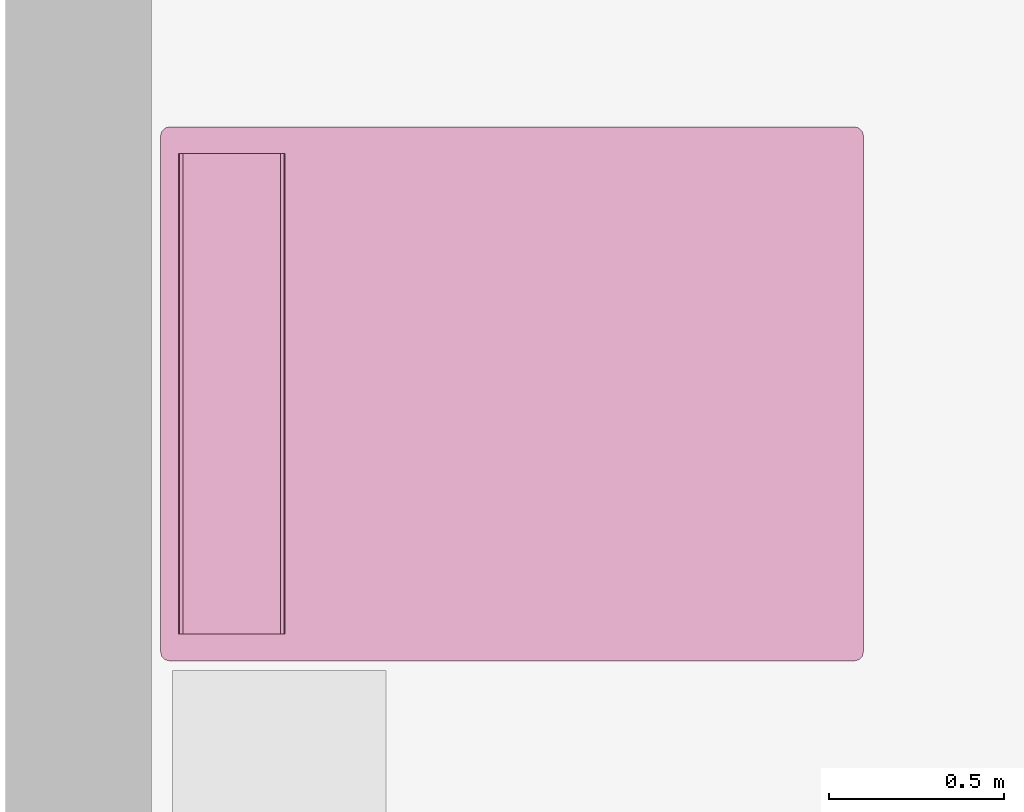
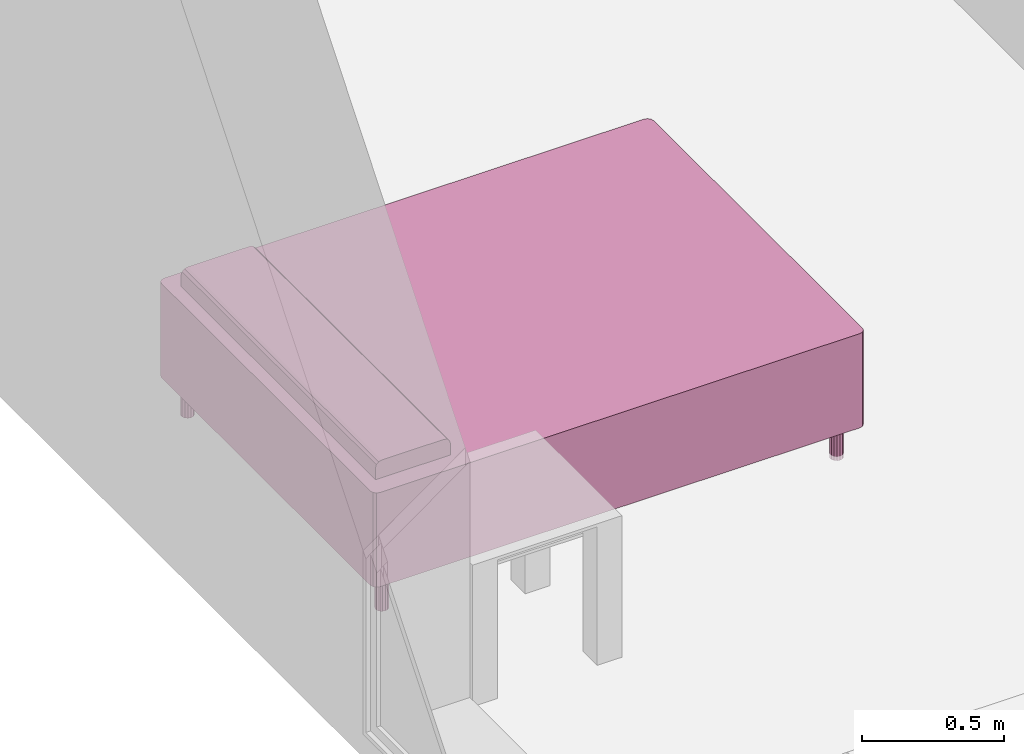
# One storey, part 11 of 16: 1 furnishing.
"""IFC4 building model written with IfcOpenShell, lengths in metres."""

from ifc_helpers import new_model, entity, si_unit, converted_unit, frame, origin, place, context, project, spatial, face_set, surface_model, source, transform, mapped, type_object, type_shapes, element, save


model = new_model("IFC4")

# Units and contexts
model_context = context("Model", 3, precision=1e-09, world=origin())
plan_context = context("Plan", 3, precision=1e-09, world=origin())
ifc_project = project(units=[si_unit("LENGTHUNIT", "METRE"), si_unit("AREAUNIT", "SQUARE_METRE"), si_unit("VOLUMEUNIT", "CUBIC_METRE"), converted_unit("PLANEANGLEUNIT", "DEGREE", entity("IfcRatioMeasure", 0.01745329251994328), si_unit("PLANEANGLEUNIT", "RADIAN"), dimensions=[0, 0, 0, 0, 0, 0, 0]), si_unit("TIMEUNIT", "SECOND")], contexts=[model_context, plan_context])

# Site, building, storey, space
site_placement = place(None, origin())
site = spatial("IfcSite", under=ifc_project, at=site_placement, Name="Default", CompositionType="ELEMENT")
building_placement = place(site_placement, origin())
building = spatial("IfcBuilding", under=site, at=building_placement, CompositionType="ELEMENT")
storey_placement = place(building_placement, frame((0.0, 0.0, 3.100000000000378)))
storey = spatial("IfcBuildingStorey", under=building, at=storey_placement, Name="Level 2", CompositionType="ELEMENT", Elevation=3.100000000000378)
space_placement = place(storey_placement, origin())
space = spatial("IfcSpace", under=storey, at=space_placement, Name="B203", CompositionType="ELEMENT", PredefinedType="SPACE")

# Furnishing
furniture_type = type_object("IfcFurnitureType", Name="1525 x 2007mm - Queen", AssemblyPlace="NOTDEFINED")
shared_shape = source(origin(), model_context, "Body", "SurfaceModel", [
    surface_model("IfcFaceBasedSurfaceModel", [(0.001595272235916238, 0.02699527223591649, 0.3556), (0.001595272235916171, 1.983195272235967, 0.3556), (0.004998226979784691, 1.995895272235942, 0.3556), (0.01429527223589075, 2.005192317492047, 0.3556), (0.02699527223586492, 2.008595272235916, 0.3556), (1.501195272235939, 2.008595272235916, 0.3556), (1.513895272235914, 2.005192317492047, 0.3556), (1.523192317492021, 1.995895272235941, 0.3556), (1.52659527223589, 1.983195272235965, 0.3556), (1.52659527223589, 0.02699527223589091, 0.3556), (1.523192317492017, 0.01429527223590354, 0.3556), (1.513895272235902, 0.004998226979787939, 0.3556), (1.501195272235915, 0.001595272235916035, 0.3556), (0.02699527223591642, 0.001595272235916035, 0.3556), (0.01429527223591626, 0.004998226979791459, 0.3556), (0.004998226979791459, 0.0142952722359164, 0.3556), (0.001595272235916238, 0.02699527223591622, 0.1524), (0.001595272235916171, 1.983195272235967, 0.1524), (0.004998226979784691, 1.995895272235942, 0.1524), (0.01429527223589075, 2.005192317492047, 0.1524), (0.02699527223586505, 2.008595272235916, 0.1524), (1.501195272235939, 2.008595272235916, 0.1524), (1.513895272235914, 2.005192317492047, 0.1524), (1.523192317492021, 1.995895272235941, 0.1524), (1.52659527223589, 1.983195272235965, 0.1524), (1.52659527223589, 0.02699527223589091, 0.1524), (1.523192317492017, 0.01429527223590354, 0.1524), (1.513895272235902, 0.004998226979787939, 0.1524), (1.501195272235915, 0.001595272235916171, 0.1524), (0.02699527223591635, 0.001595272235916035, 0.1524), (0.01429527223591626, 0.004998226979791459, 0.1524), (0.004998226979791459, 0.0142952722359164, 0.1524), (0.003559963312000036, 0.01966295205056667, 0.1524000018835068), (0.003296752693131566, 0.02064530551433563, 0.3555999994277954), (0.0096467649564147, 0.009646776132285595, 0.3555999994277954), (0.0096467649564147, 0.009646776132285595, 0.1524000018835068), (0.02064525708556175, 0.003296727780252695, 0.1524000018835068), (0.01966294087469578, 0.003559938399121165, 0.3555999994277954), (1.508527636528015, 0.003559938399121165, 0.1524000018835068), (1.507545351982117, 0.003296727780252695, 0.3555999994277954), (1.518543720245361, 0.009646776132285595, 0.3555999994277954), (1.518543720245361, 0.009646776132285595, 0.1524000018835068), (1.524893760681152, 0.02064530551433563, 0.1524000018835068), (1.524630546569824, 0.01966295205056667, 0.3555999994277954), (1.524893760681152, 1.989545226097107, 0.3555999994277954), (1.524893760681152, 1.989545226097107, 0.1524000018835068), (1.518543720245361, 2.000543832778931, 0.3555999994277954), (1.518543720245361, 2.000543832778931, 0.1524000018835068), (1.507545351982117, 2.006893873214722, 0.1524000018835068), (1.508527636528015, 2.006630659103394, 0.3555999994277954), (0.01966294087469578, 2.006630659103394, 0.1524000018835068), (0.02064525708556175, 2.006893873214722, 0.3555999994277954), (0.0096467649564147, 2.000543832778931, 0.3555999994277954), (0.0096467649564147, 2.000543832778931, 0.1524000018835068), (0.003296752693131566, 1.989545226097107, 0.1524000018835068), (0.003559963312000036, 1.990527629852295, 0.3555999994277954), (0.07779527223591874, 1.652995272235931, 0.5588000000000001), (0.07779527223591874, 1.652995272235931, 0.6096), (0.07779527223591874, 1.656398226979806, 0.6223), (0.07779527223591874, 1.665695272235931, 0.6315970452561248), (0.07779527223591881, 1.678395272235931, 0.6349999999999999), (0.07779527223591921, 1.932395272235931, 0.6349999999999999), (0.07779527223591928, 1.945095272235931, 0.6315970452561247), (0.07779527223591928, 1.954392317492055, 0.6222999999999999), (0.07779527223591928, 1.957795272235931, 0.6095999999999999), (0.07779527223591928, 1.957795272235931, 0.5588000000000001), (1.45039527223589, 1.652995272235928, 0.5588000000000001), (1.450395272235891, 1.957795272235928, 0.5588000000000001), (1.450395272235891, 1.957795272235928, 0.6095999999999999), (1.450395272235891, 1.954392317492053, 0.6222999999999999), (1.450395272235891, 1.945095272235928, 0.6315970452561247), (1.450395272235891, 1.932395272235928, 0.6349999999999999), (1.45039527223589, 1.678395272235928, 0.6349999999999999), (1.45039527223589, 1.665695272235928, 0.6315970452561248), (1.45039527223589, 1.656398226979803, 0.6223), (1.45039527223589, 1.652995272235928, 0.6096), (0.07779525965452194, 1.655322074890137, 0.6182838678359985), (1.450395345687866, 1.654696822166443, 0.6159499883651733), (0.07779525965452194, 1.654158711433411, 0.6139419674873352), (0.07779525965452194, 1.674053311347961, 0.6338366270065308), (1.450395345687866, 1.672045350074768, 0.6332985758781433), (0.07779525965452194, 1.661046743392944, 0.6269484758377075), (1.450395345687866, 1.661046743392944, 0.6269484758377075), (0.07779525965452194, 1.669711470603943, 0.6326731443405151), (1.450395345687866, 1.941079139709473, 0.6326731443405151), (0.07779525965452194, 1.956631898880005, 0.6139419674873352), (1.450395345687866, 1.956093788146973, 0.6159499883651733), (0.07779525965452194, 1.938745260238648, 0.6332985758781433), (1.450395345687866, 1.936737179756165, 0.6338366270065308), (0.07779525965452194, 1.949743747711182, 0.6269484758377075), (1.450395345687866, 1.949743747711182, 0.6269484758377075), (0.07779525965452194, 1.955468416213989, 0.6182838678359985), (0.1031952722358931, 1.932395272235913, 0.1524), (0.1006798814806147, 1.921374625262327, 0.1524), (0.09363191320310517, 1.912536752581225, 0.1524), (0.08344730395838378, 1.907632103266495, 0.1524), (0.0721432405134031, 1.907632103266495, 0.1524), (0.06195863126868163, 1.912536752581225, 0.1524), (0.05491066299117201, 1.921374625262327, 0.1524), (0.05239527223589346, 1.932395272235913, 0.1524), (0.05491066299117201, 1.943415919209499, 0.1524), (0.06195863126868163, 1.9522537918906, 0.1524), (0.07214324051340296, 1.957158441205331, 0.1524), (0.0834473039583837, 1.957158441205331, 0.1524), (0.09363191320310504, 1.9522537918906, 0.1524), (0.1006798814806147, 1.943415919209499, 0.1524), (1.475795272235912, 1.93239527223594, 0.1524), (1.473279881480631, 1.921374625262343, 0.1524), (1.466231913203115, 1.912536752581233, 0.1524), (1.456047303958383, 1.907632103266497, 0.1524), (1.444743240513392, 1.907632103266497, 0.1524), (1.434558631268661, 1.912536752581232, 0.1524), (1.427510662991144, 1.921374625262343, 0.1524), (1.424995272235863, 1.932395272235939, 0.1524), (1.427510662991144, 1.943415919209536, 0.1524), (1.434558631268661, 1.952253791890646, 0.1524), (1.444743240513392, 1.957158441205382, 0.1524), (1.456047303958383, 1.957158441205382, 0.1524), (1.466231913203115, 1.952253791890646, 0.1524), (1.473279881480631, 1.943415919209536, 0.1524), (1.475795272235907, 0.07779527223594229, 0.1524), (1.473279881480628, 0.06677462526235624, 0.1524), (1.466231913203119, 0.05793675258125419, 0.1524), (1.456047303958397, 0.05303210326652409, 0.1524), (1.444743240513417, 0.05303210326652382, 0.1524), (1.434558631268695, 0.05793675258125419, 0.1524), (1.427510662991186, 0.06677462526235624, 0.1524), (1.424995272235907, 0.07779527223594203, 0.1524), (1.427510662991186, 0.08881591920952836, 0.1524), (1.434558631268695, 0.09765379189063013, 0.1524), (1.444743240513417, 0.1025584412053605, 0.1524), (1.456047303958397, 0.1025584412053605, 0.1524), (1.466231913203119, 0.09765379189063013, 0.1524), (1.473279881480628, 0.0888159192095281, 0.1524), (0.1031952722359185, 0.07779527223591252, 0.1524), (0.1006798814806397, 0.0667746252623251, 0.1524), (0.0936319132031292, 0.0579367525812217, 0.1524), (0.08344730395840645, 0.05303210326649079, 0.1524), (0.07214324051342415, 0.05303210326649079, 0.1524), (0.06195863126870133, 0.0579367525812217, 0.1524), (0.05491066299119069, 0.06677462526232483, 0.1524), (0.0523952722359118, 0.07779527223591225, 0.1524), (0.05491066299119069, 0.08881591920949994, 0.1524), (0.06195863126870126, 0.09765379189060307, 0.1524), (0.07214324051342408, 0.102558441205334, 0.1524), (0.08344730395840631, 0.102558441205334, 0.1524), (0.09363191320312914, 0.09765379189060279, 0.1524), (0.1006798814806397, 0.08881591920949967, 0.1524), (0.1031952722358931, 1.932395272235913, 0.0), (0.1006798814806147, 1.921374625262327, 0.0), (0.09363191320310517, 1.912536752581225, 0.0), (0.08344730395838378, 1.907632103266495, 0.0), (0.0721432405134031, 1.907632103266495, 0.0), (0.06195863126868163, 1.912536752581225, 0.0), (0.05491066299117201, 1.921374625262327, 0.0), (0.05239527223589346, 1.932395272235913, 0.0), (0.05491066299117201, 1.943415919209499, 0.0), (0.06195863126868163, 1.9522537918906, 0.0), (0.07214324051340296, 1.957158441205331, 0.0), (0.0834473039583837, 1.957158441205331, 0.0), (0.09363191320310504, 1.9522537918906, 0.0), (0.1006798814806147, 1.943415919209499, 0.0), (1.475795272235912, 1.932395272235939, 0.0), (1.473279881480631, 1.921374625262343, 0.0), (1.466231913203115, 1.912536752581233, 0.0), (1.456047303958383, 1.907632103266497, 0.0), (1.444743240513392, 1.907632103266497, 0.0), (1.434558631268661, 1.912536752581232, 0.0), (1.427510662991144, 1.921374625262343, 0.0), (1.424995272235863, 1.93239527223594, 0.0), (1.427510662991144, 1.943415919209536, 0.0), (1.434558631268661, 1.952253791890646, 0.0), (1.444743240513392, 1.957158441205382, 0.0), (1.456047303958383, 1.957158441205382, 0.0), (1.466231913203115, 1.952253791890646, 0.0), (1.473279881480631, 1.943415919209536, 0.0), (1.475795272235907, 0.07779527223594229, 0.0), (1.473279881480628, 0.06677462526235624, 0.0), (1.466231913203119, 0.05793675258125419, 0.0), (1.456047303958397, 0.05303210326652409, 0.0), (1.444743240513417, 0.05303210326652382, 0.0), (1.434558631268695, 0.05793675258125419, 0.0), (1.427510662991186, 0.06677462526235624, 0.0), (1.424995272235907, 0.07779527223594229, 0.0), (1.427510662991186, 0.08881591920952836, 0.0), (1.434558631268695, 0.09765379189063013, 0.0), (1.444743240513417, 0.1025584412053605, 0.0), (1.456047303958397, 0.1025584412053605, 0.0), (1.466231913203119, 0.09765379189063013, 0.0), (1.473279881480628, 0.0888159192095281, 0.0), (0.1031952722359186, 0.07779527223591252, 0.0), (0.1006798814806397, 0.0667746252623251, 0.0), (0.0936319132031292, 0.0579367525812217, 0.0), (0.08344730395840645, 0.05303210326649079, 0.0), (0.07214324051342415, 0.05303210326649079, 0.0), (0.06195863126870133, 0.0579367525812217, 0.0), (0.05491066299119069, 0.06677462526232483, 0.0), (0.05239527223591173, 0.07779527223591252, 0.0), (0.05491066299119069, 0.08881591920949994, 0.0), (0.06195863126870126, 0.09765379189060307, 0.0), (0.07214324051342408, 0.102558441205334, 0.0), (0.08344730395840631, 0.102558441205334, 0.0), (0.09363191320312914, 0.09765379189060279, 0.0), (0.1006798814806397, 0.08881591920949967, 0.0), (0.05365298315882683, 1.926885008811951, 0.1524000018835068), (0.0584346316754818, 1.916955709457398, 0.0), (0.0584346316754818, 1.916955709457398, 0.1524000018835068), (0.1020657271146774, 1.927446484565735, 0.1524000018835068), (0.1019375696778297, 1.926885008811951, 0.0), (0.06705092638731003, 1.910084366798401, 0.0), (0.06705092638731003, 1.910084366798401, 0.1524000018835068), (0.05352479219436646, 1.927446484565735, 0.0), (0.07779525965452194, 1.907632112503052, 0.1524000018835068), (0.07779525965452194, 1.907632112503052, 0.0), (0.08853962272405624, 1.910084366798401, 0.0), (0.08853962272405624, 1.910084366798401, 0.1524000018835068), (0.09715588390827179, 1.916955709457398, 0.1524000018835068), (0.09715588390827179, 1.916955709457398, 0.0), (0.1020657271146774, 1.937344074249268, 0.0), (0.1019375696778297, 1.937905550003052, 0.1524000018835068), (0.09715588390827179, 1.947834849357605, 0.0), (0.09715588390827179, 1.947834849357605, 0.1524000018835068), (0.08853962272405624, 1.954706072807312, 0.1524000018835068), (0.08853962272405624, 1.954706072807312, 0.0), (0.07779525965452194, 1.957158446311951, 0.1524000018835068), (0.07779525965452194, 1.957158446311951, 0.0), (0.06705092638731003, 1.954706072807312, 0.1524000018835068), (0.06705092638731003, 1.954706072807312, 0.0), (0.05352479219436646, 1.937344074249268, 0.1524000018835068), (0.0584346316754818, 1.947834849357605, 0.1524000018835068), (0.0584346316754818, 1.947834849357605, 0.0), (0.05365298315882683, 1.937905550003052, 0.0), (1.426252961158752, 1.926885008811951, 0.1524000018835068), (1.431034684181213, 1.916955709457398, 0.0), (1.431034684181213, 1.916955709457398, 0.1524000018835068), (1.47453761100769, 1.926885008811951, 0.0), (1.474665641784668, 1.927446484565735, 0.1524000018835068), (1.439650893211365, 1.910084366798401, 0.0), (1.439650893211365, 1.910084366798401, 0.1524000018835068), (1.426124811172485, 1.927446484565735, 0.0), (1.450395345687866, 1.907632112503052, 0.1524000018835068), (1.450395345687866, 1.907632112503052, 0.0), (1.461139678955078, 1.910084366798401, 0.0), (1.461139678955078, 1.910084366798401, 0.1524000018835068), (1.46975588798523, 1.916955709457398, 0.1524000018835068), (1.46975588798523, 1.916955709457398, 0.0), (1.474665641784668, 1.937344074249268, 0.0), (1.47453761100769, 1.937905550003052, 0.1524000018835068), (1.46975588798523, 1.947834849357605, 0.0), (1.46975588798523, 1.947834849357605, 0.1524000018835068), (1.461139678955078, 1.954706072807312, 0.1524000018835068), (1.461139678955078, 1.954706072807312, 0.0), (1.450395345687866, 1.957158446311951, 0.1524000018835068), (1.450395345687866, 1.957158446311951, 0.0), (1.439650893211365, 1.954706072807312, 0.1524000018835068), (1.439650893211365, 1.954706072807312, 0.0), (1.426124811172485, 1.937344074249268, 0.1524000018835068), (1.431034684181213, 1.947834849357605, 0.1524000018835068), (1.431034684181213, 1.947834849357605, 0.0), (1.426252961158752, 1.937905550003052, 0.0), (1.426252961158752, 0.07228495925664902, 0.1524000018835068), (1.431034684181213, 0.06235569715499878, 0.0), (1.431034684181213, 0.06235569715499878, 0.1524000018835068), (1.47453761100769, 0.07228495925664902, 0.0), (1.474665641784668, 0.07284647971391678, 0.1524000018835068), (1.439650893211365, 0.05548445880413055, 0.1524000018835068), (1.439650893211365, 0.05548445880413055, 0.0), (1.426124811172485, 0.07284647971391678, 0.0), (1.450395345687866, 0.05303213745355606, 0.0), (1.450395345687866, 0.05303213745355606, 0.1524000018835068), (1.461139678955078, 0.05548445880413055, 0.1524000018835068), (1.461139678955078, 0.05548445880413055, 0.0), (1.46975588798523, 0.06235569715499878, 0.1524000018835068), (1.46975588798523, 0.06235569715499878, 0.0), (1.474665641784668, 0.08274412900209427, 0.0), (1.47453761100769, 0.08330558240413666, 0.1524000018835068), (1.46975588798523, 0.0932348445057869, 0.1524000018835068), (1.46975588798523, 0.0932348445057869, 0.0), (1.461139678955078, 0.1001060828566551, 0.0), (1.461139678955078, 0.1001060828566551, 0.1524000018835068), (1.450395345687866, 0.102558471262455, 0.0), (1.450395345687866, 0.102558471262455, 0.1524000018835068), (1.439650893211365, 0.1001060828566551, 0.0), (1.439650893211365, 0.1001060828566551, 0.1524000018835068), (1.426124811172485, 0.08274412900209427, 0.1524000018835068), (1.431034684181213, 0.0932348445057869, 0.0), (1.431034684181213, 0.0932348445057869, 0.1524000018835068), (1.426252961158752, 0.08330558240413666, 0.0), (0.05365298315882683, 0.07228495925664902, 0.1524000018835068), (0.0584346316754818, 0.06235569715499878, 0.1524000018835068), (0.0584346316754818, 0.06235569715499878, 0.0), (0.1020657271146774, 0.07284647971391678, 0.1524000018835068), (0.1019375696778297, 0.07228495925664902, 0.0), (0.06705092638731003, 0.05548445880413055, 0.1524000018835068), (0.06705092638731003, 0.05548445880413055, 0.0), (0.05352479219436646, 0.07284647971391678, 0.0), (0.07779525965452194, 0.05303213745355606, 0.0), (0.07779525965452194, 0.05303213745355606, 0.1524000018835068), (0.08853962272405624, 0.05548445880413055, 0.1524000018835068), (0.08853962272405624, 0.05548445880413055, 0.0), (0.09715588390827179, 0.06235569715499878, 0.1524000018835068), (0.09715588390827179, 0.06235569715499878, 0.0), (0.1020657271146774, 0.08274412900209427, 0.0), (0.1019375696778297, 0.08330558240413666, 0.1524000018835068), (0.09715588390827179, 0.0932348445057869, 0.1524000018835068), (0.09715588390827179, 0.0932348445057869, 0.0), (0.08853962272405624, 0.1001060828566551, 0.0), (0.08853962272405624, 0.1001060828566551, 0.1524000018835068), (0.07779525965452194, 0.102558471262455, 0.0), (0.07779525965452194, 0.102558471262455, 0.1524000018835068), (0.06705092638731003, 0.1001060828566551, 0.0), (0.06705092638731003, 0.1001060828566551, 0.1524000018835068), (0.05352479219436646, 0.08274412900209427, 0.1524000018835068), (0.0584346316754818, 0.0932348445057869, 0.0), (0.0584346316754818, 0.0932348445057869, 0.1524000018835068), (0.05365298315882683, 0.08330558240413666, 0.0), (0.02699527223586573, 2.008595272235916, 0.5588000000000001), (1.50119527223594, 2.008595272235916, 0.5588000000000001), (1.513895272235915, 2.005192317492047, 0.5588000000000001), (1.523192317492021, 1.995895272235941, 0.5588000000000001), (1.52659527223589, 1.983195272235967, 0.5588000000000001), (1.52659527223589, 0.02699527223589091, 0.5588000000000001), (1.523192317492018, 0.01429527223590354, 0.5588000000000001), (1.513895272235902, 0.004998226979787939, 0.5588000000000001), (1.501195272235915, 0.001595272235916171, 0.5588000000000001), (0.02699527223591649, 0.001595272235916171, 0.5588000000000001), (0.01429527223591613, 0.004998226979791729, 0.5588000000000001), (0.004998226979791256, 0.01429527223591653, 0.5588000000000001), (0.001595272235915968, 0.02699527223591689, 0.5588000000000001), (0.001595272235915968, 1.983195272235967, 0.5588000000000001), (0.004998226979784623, 1.995895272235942, 0.5588000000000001), (0.01429527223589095, 2.005192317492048, 0.5588000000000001), (0.02699527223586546, 2.008595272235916, 0.3556), (1.50119527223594, 2.008595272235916, 0.3556), (1.513895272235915, 2.005192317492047, 0.3556), (1.523192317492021, 1.995895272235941, 0.3556), (1.52659527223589, 1.983195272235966, 0.3556), (1.52659527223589, 0.02699527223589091, 0.3556), (1.523192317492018, 0.01429527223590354, 0.3556), (1.513895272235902, 0.004998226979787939, 0.3556), (1.501195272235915, 0.001595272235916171, 0.3556), (0.02699527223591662, 0.001595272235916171, 0.3556), (0.01429527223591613, 0.004998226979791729, 0.3556), (0.004998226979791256, 0.01429527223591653, 0.3556), (0.001595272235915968, 0.02699527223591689, 0.3556), (0.001595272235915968, 1.983195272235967, 0.3556), (0.004998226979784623, 1.995895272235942, 0.3556), (0.01429527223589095, 2.005192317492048, 0.3556), (0.01966294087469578, 2.006630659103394, 0.3555999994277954), (0.02064525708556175, 2.006893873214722, 0.5588000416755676), (0.0096467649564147, 2.000543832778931, 0.5588000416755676), (0.0096467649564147, 2.000543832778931, 0.3555999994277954), (0.003296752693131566, 1.989545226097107, 0.3555999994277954), (0.003559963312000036, 1.990527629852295, 0.5588000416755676), (0.003559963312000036, 0.01966295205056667, 0.3555999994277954), (0.003296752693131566, 0.02064530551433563, 0.5588000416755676), (0.0096467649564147, 0.009646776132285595, 0.5588000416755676), (0.0096467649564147, 0.009646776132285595, 0.3555999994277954), (0.02064525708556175, 0.003296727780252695, 0.3555999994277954), (0.01966294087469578, 0.003559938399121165, 0.5588000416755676), (1.508527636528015, 0.003559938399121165, 0.3555999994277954), (1.507545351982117, 0.003296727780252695, 0.5588000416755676), (1.518543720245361, 0.009646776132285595, 0.5588000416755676), (1.518543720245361, 0.009646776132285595, 0.3555999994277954), (1.524893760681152, 0.02064530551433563, 0.3555999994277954), (1.524630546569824, 0.01966295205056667, 0.5588000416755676), (1.524630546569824, 1.990527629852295, 0.3555999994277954), (1.524893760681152, 1.989545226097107, 0.5588000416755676), (1.518543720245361, 2.000543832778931, 0.5588000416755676), (1.518543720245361, 2.000543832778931, 0.3555999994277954), (1.507545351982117, 2.006893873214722, 0.3555999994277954), (1.508527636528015, 2.006630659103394, 0.5588000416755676)], [face_set([[[0, 1, 2, 3, 4, 5, 6, 7, 8, 9, 10, 11, 12, 13, 14, 15]], [[16, 17, 18, 19, 20, 21, 22, 23, 24, 25, 26, 27, 28, 29, 30, 31]], [[15, 32, 31]], [[32, 15, 33]], [[33, 0, 16]], [[34, 35, 30, 14]], [[16, 32, 33]], [[36, 29, 13]], [[37, 30, 36]], [[35, 34, 15, 31]], [[30, 37, 14]], [[13, 37, 36]], [[12, 28, 29, 13]], [[11, 38, 27]], [[38, 11, 39]], [[39, 12, 28]], [[40, 41, 26, 10]], [[28, 38, 39]], [[42, 25, 9]], [[43, 26, 42]], [[41, 40, 11, 27]], [[26, 43, 10]], [[9, 43, 42]], [[8, 9, 25, 24]], [[44, 8, 24, 45]], [[44, 45, 23, 7]], [[46, 47, 22, 6]], [[48, 21, 5]], [[5, 49, 48]], [[22, 49, 6]], [[47, 46, 7, 23]], [[49, 22, 48]], [[4, 5, 21, 20]], [[3, 50, 19]], [[50, 3, 51]], [[51, 4, 20]], [[52, 53, 18, 2]], [[20, 50, 51]], [[54, 17, 1]], [[55, 18, 54]], [[53, 52, 3, 19]], [[18, 55, 2]], [[1, 55, 54]], [[0, 1, 17, 16]]]), face_set([[[56, 57, 58, 59, 60, 61, 62, 63, 64, 65]], [[66, 67, 68, 69, 70, 71, 72, 73, 74, 75]], [[57, 56, 66, 75]], [[74, 76, 77]], [[78, 75, 77]], [[72, 79, 80]], [[77, 76, 78]], [[81, 82, 73, 59]], [[78, 57, 75]], [[60, 79, 72]], [[83, 80, 79]], [[73, 83, 59]], [[82, 81, 58, 74]], [[83, 73, 80]], [[74, 58, 76]], [[61, 71, 72, 60]], [[62, 84, 70]], [[68, 85, 86]], [[84, 62, 87]], [[71, 88, 61]], [[89, 90, 69, 63]], [[84, 87, 88]], [[64, 85, 68]], [[91, 69, 86]], [[90, 89, 62, 70]], [[69, 91, 63]], [[91, 86, 85]], [[61, 88, 87]], [[65, 67, 68, 64]], [[56, 65, 67, 66]]]), face_set([[[92, 93, 94, 95, 96, 97, 98, 99, 100, 101, 102, 103, 104, 105]], [[106, 107, 108, 109, 110, 111, 112, 113, 114, 115, 116, 117, 118, 119]], [[120, 121, 122, 123, 124, 125, 126, 127, 128, 129, 130, 131, 132, 133]], [[134, 135, 136, 137, 138, 139, 140, 141, 142, 143, 144, 145, 146, 147]], [[148, 149, 150, 151, 152, 153, 154, 155, 156, 157, 158, 159, 160, 161]], [[162, 163, 164, 165, 166, 167, 168, 169, 170, 171, 172, 173, 174, 175]], [[176, 177, 178, 179, 180, 181, 182, 183, 184, 185, 186, 187, 188, 189]], [[190, 191, 192, 193, 194, 195, 196, 197, 198, 199, 200, 201, 202, 203]], [[98, 204, 154]], [[97, 153, 205, 206]], [[207, 208, 93]], [[96, 152, 209, 210]], [[154, 204, 211]], [[204, 99, 211]], [[154, 98, 206, 205]], [[210, 209, 153, 97]], [[96, 212, 151, 213]], [[99, 155, 211]], [[94, 150, 214, 215]], [[150, 94, 216, 217]], [[93, 149, 217, 216]], [[151, 95, 215, 214]], [[208, 207, 148]], [[93, 208, 149]], [[212, 95, 151]], [[96, 213, 152]], [[207, 92, 148]], [[218, 148, 92]], [[219, 218, 92]], [[220, 160, 221, 105]], [[222, 223, 159, 103]], [[218, 219, 161]], [[161, 219, 105]], [[160, 104, 221]], [[220, 105, 161]], [[104, 160, 223, 222]], [[224, 225, 158, 102]], [[226, 227, 157, 101]], [[155, 99, 228]], [[229, 230, 156, 100]], [[230, 229, 101, 157]], [[155, 228, 231]], [[102, 158, 227, 226]], [[156, 231, 100]], [[225, 224, 103, 159]], [[100, 231, 228]], [[168, 232, 112]], [[111, 167, 233, 234]], [[107, 235, 236]], [[110, 166, 237, 238]], [[239, 232, 168]], [[239, 113, 232]], [[168, 112, 234, 233]], [[238, 237, 167, 111]], [[110, 240, 165, 241]], [[239, 169, 113]], [[108, 164, 242, 243]], [[164, 108, 244, 245]], [[107, 163, 245, 244]], [[165, 109, 243, 242]], [[162, 236, 235]], [[163, 235, 107]], [[240, 109, 165]], [[110, 241, 166]], [[162, 106, 236]], [[106, 162, 246]], [[106, 246, 247]], [[248, 174, 249, 119]], [[250, 251, 173, 117]], [[175, 247, 246]], [[119, 247, 175]], [[174, 118, 249]], [[248, 119, 175]], [[118, 174, 251, 250]], [[252, 253, 172, 116]], [[254, 255, 171, 115]], [[256, 113, 169]], [[257, 258, 170, 114]], [[258, 257, 115, 171]], [[259, 256, 169]], [[116, 172, 255, 254]], [[114, 259, 170]], [[253, 252, 117, 173]], [[256, 259, 114]], [[182, 260, 126]], [[261, 181, 262, 126]], [[121, 263, 264]], [[265, 266, 180, 124]], [[267, 260, 182]], [[267, 127, 260]], [[126, 182, 261]], [[125, 181, 266, 265]], [[181, 125, 262]], [[268, 179, 269, 124]], [[267, 183, 127]], [[270, 271, 178, 122]], [[272, 122, 273, 177]], [[271, 270, 123, 179]], [[177, 121, 272]], [[176, 264, 263]], [[122, 178, 273]], [[177, 263, 121]], [[179, 123, 269]], [[180, 268, 124]], [[176, 120, 264]], [[120, 176, 274]], [[120, 274, 275]], [[133, 276, 188, 277]], [[131, 187, 278, 279]], [[189, 275, 274]], [[133, 275, 189]], [[276, 132, 188]], [[189, 133, 277]], [[279, 278, 188, 132]], [[130, 186, 280, 281]], [[129, 185, 282, 283]], [[284, 127, 183]], [[128, 184, 285, 286]], [[185, 129, 286, 285]], [[287, 284, 183]], [[283, 282, 186, 130]], [[128, 287, 184]], [[187, 131, 281, 280]], [[284, 287, 128]], [[140, 288, 196]], [[289, 290, 195, 139]], [[291, 292, 135]], [[293, 294, 194, 138]], [[196, 288, 295]], [[288, 141, 295]], [[290, 289, 140, 196]], [[139, 195, 294, 293]], [[296, 193, 297, 138]], [[141, 197, 295]], [[298, 299, 192, 136]], [[300, 136, 301, 191]], [[299, 298, 137, 193]], [[191, 135, 300]], [[292, 291, 190]], [[136, 192, 301]], [[135, 292, 191]], [[193, 137, 297]], [[194, 296, 138]], [[291, 134, 190]], [[302, 190, 134]], [[303, 302, 134]], [[147, 304, 202, 305]], [[145, 201, 306, 307]], [[302, 303, 203]], [[203, 303, 147]], [[304, 146, 202]], [[203, 147, 305]], [[307, 306, 202, 146]], [[144, 200, 308, 309]], [[143, 199, 310, 311]], [[197, 141, 312]], [[142, 198, 313, 314]], [[199, 143, 314, 313]], [[197, 312, 315]], [[311, 310, 200, 144]], [[198, 315, 142]], [[201, 145, 309, 308]], [[142, 315, 312]]]), face_set([[[316, 317, 318, 319, 320, 321, 322, 323, 324, 325, 326, 327, 328, 329, 330, 331]], [[332, 333, 334, 335, 336, 337, 338, 339, 340, 341, 342, 343, 344, 345, 346, 347]], [[331, 348, 347]], [[348, 331, 349]], [[349, 316, 332]], [[350, 351, 346, 330]], [[332, 348, 349]], [[352, 345, 329]], [[353, 346, 352]], [[351, 350, 331, 347]], [[346, 353, 330]], [[329, 353, 352]], [[328, 329, 345, 344]], [[327, 354, 343]], [[354, 327, 355]], [[355, 328, 344]], [[356, 357, 342, 326]], [[344, 354, 355]], [[358, 341, 325]], [[359, 342, 358]], [[357, 356, 327, 343]], [[342, 359, 326]], [[325, 359, 358]], [[324, 340, 341, 325]], [[323, 360, 339]], [[360, 323, 361]], [[361, 324, 340]], [[362, 363, 338, 322]], [[340, 360, 361]], [[364, 337, 321]], [[365, 338, 364]], [[363, 362, 323, 339]], [[338, 365, 322]], [[321, 365, 364]], [[320, 321, 337, 336]], [[319, 366, 335]], [[366, 319, 367]], [[367, 320, 336]], [[368, 369, 334, 318]], [[336, 366, 367]], [[370, 333, 317]], [[371, 334, 370]], [[369, 368, 319, 335]], [[334, 371, 318]], [[317, 371, 370]], [[316, 317, 333, 332]]])]),
])
type_shapes(furniture_type, [shared_shape])
furnishing_placement = place(space_placement, frame((2.451595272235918, -4.586095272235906, 0.0), z_axis=(0.0, 0.0, 1.0), x_axis=(0.0, 1.0, 0.0)))
element("IfcFurnishingElement", 1, at=furnishing_placement, inside=space, type_object=furniture_type, Name="M_Bed-Standard:1525 x 2007mm - Queen:1525 x 2007mm - Queen", ObjectType="1525 x 2007mm - Queen", context=model_context, shape_type="MappedRepresentation", body=[
    mapped(shared_shape, transform((0.0, 0.0, 0.0), scale=1.0)),
])

save(model, "model.ifc")
